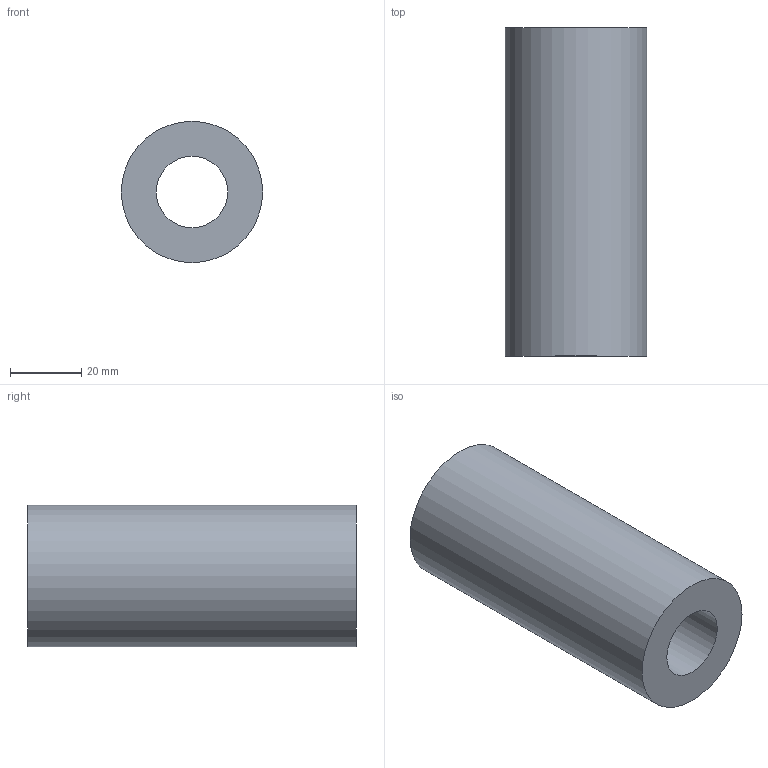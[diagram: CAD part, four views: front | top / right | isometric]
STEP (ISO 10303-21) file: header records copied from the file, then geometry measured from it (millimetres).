
FILE_DESCRIPTION(('Open CASCADE Model'),'2;1');
FILE_NAME('Open CASCADE Shape Model','2026-10-17T16:45:04',('Author'),( 'Open CASCADE'),'Open CASCADE STEP processor 8.0','build123d', 'Unknown');
FILE_SCHEMA(('AUTOMOTIVE_DESIGN { 1 0 10303 214 1 1 1 1 }'));
Length unit declared in the file: millimetre
Products named in the file (1): COMPOUND
Bounding box: 39.6 x 92 x 39.6 mm (x, y, z)
Volume: 84407.3 mm3; surface area: 19060.9 mm2
Topology: 1 solids, 1 shells, 4 faces, 6 edges, 4 vertices
Faces by surface type: cylinder 2, plane 2
Full cylindrical faces by diameter (mm): 20 x1, 39.6 x1
Entity records: 186 total; most frequent: DIRECTION 32, CARTESIAN_POINT 27, ORIENTED_EDGE 12, PCURVE 12, DEFINITIONAL_REPRESENTATION 12, LINE 10, VECTOR 10, AXIS2_PLACEMENT_3D 9
